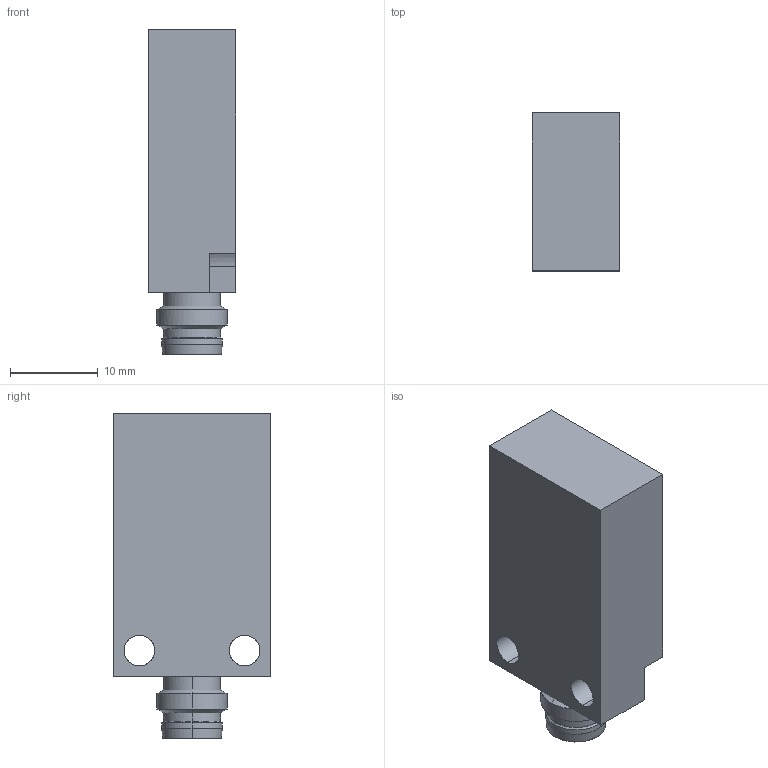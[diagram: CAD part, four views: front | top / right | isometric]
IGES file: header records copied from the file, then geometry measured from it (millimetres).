
Start section: Comment
Global section: file name: IWFM 18xx50x_S35A.igs; native system:  By Spatial Corp.; preprocessor: XPlus GENERIC/IGES 3.0; author: Author; organization: Title; date: 20060328.164933; units: inch
Bounding box: 10 x 18 x 37 mm (x, y, z)
Surface area: 2508.3 mm2 (no closed solid volume)
Topology: 0 solids, 0 shells, 72 faces, 332 edges, 316 vertices
Faces by surface type: bspline 72
